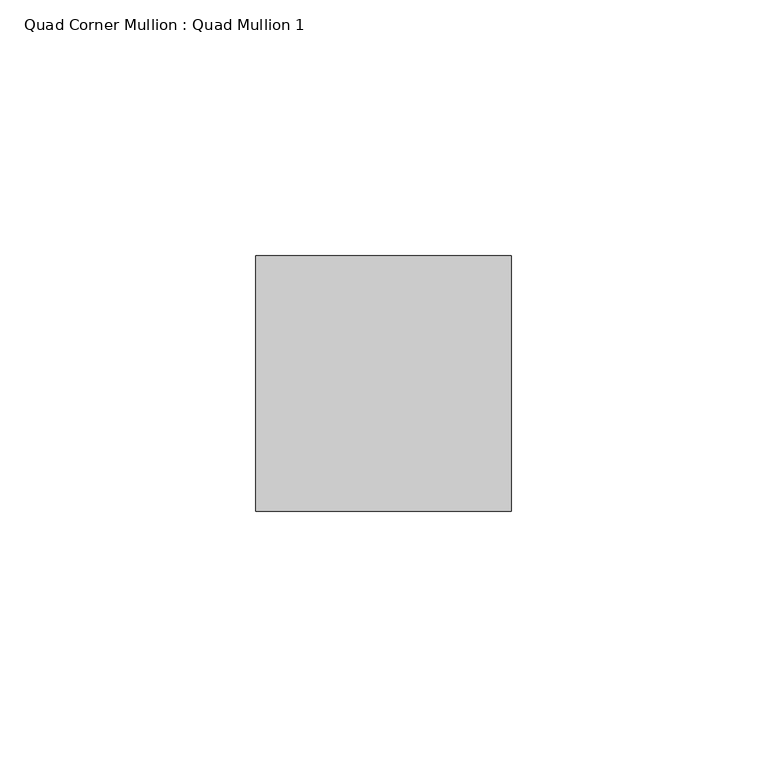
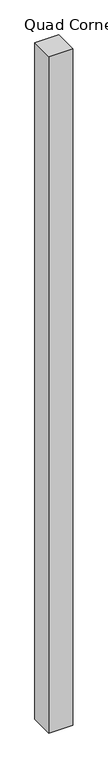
"""IFC4 building model written with IfcOpenShell, lengths in millimetres: member geometry, Quad Corner Mullion : Quad Mullion 1."""

import ifcopenshell
import ifcopenshell.guid

model = None  # the IFC model being written
_history = None  # IfcOwnerHistory: only IFC2X3 demands one
_inside = {}  # id of a spatial element -> (the spatial element, [elements in it])
_under = {}  # id of a project, library or spatial element -> (it, [spatial elements below it])
_declared = {}  # id of a project -> (the project, [libraries it declares])
_typed = {}  # id of a type object -> (the type object, [elements of that type])
_made_of = {}  # id of a material, layer set ... -> (it, [elements and type objects made of it])


def new_model(schema):
    """Start an empty IFC model of exactly this schema.

    Asked for "IFC4X3", IfcOpenShell would pick the latest addendum, in which some entities
    have other attributes; the version numbers below select the first issue.
    IFC2X3 requires an IfcOwnerHistory on every rooted entity: one is made here for all.
    """
    global model, _history
    if schema == "IFC4X3":
        model = ifcopenshell.file(schema_version=(4, 3, 0, 0))
    else:
        model = ifcopenshell.file(schema=schema)
    _inside.clear()
    _under.clear()
    _declared.clear()
    _typed.clear()
    _made_of.clear()
    _history = None
    if model.schema == "IFC2X3":
        org = make("IfcOrganization", Name="unknown")
        user = make(
            "IfcPersonAndOrganization",
            ThePerson=make("IfcPerson", FamilyName="unknown"),
            TheOrganization=org,
        )
        app = make(
            "IfcApplication",
            ApplicationDeveloper=org,
            Version="unknown",
            ApplicationFullName="unknown",
            ApplicationIdentifier="unknown",
        )
        _history = make(
            "IfcOwnerHistory",
            OwningUser=user,
            OwningApplication=app,
            ChangeAction="ADDED",
            CreationDate=0,
        )
    return model


def make(cls, **values):
    """One entity of the class cls with the attributes given. An attribute that is None is left unset."""
    return model.create_entity(
        cls, **{name: value for name, value in values.items() if value is not None}
    )


def rooted(cls, **values):
    """An entity with a GlobalId (a new one), such as an element, a storey or a relation."""
    return make(cls, GlobalId=ifcopenshell.guid.new(), OwnerHistory=_history, **values)


def si_unit(unit_type, name, prefix=None):
    """IfcSIUnit, for example si_unit("LENGTHUNIT", "METRE", prefix="MILLI")."""
    return make("IfcSIUnit", UnitType=unit_type, Prefix=prefix, Name=name)


def assignment(units):
    """IfcUnitAssignment: the units of a project."""
    return None if units is None else make("IfcUnitAssignment", Units=units)


def point(xyz):
    """IfcCartesianPoint."""
    return None if xyz is None else make("IfcCartesianPoint", Coordinates=xyz)


def direction(xyz):
    """IfcDirection."""
    return None if xyz is None else make("IfcDirection", DirectionRatios=xyz)


def frame(location, z_axis=None, x_axis=None):
    """IfcAxis2Placement3D, a coordinate frame: its origin and axes. An axis left out is left unset."""
    return make(
        "IfcAxis2Placement3D",
        Location=point(location),
        Axis=direction(z_axis),
        RefDirection=direction(x_axis),
    )


def origin():
    """The frame at (0, 0, 0) with its axes left unset."""
    return frame((0.0, 0.0, 0.0))


def place(relative_to, where):
    """IfcLocalPlacement: puts the frame where relative to a parent placement (None: the world)."""
    return make(
        "IfcLocalPlacement", PlacementRelTo=relative_to, RelativePlacement=where
    )


def context(
    kind, dimensions, precision=None, world=None, true_north=None, identifier=None
):
    """IfcGeometricRepresentationContext, for example the 3D "Model" context."""
    return make(
        "IfcGeometricRepresentationContext",
        ContextIdentifier=identifier,
        ContextType=kind,
        CoordinateSpaceDimension=dimensions,
        Precision=precision,
        WorldCoordinateSystem=world,
        TrueNorth=true_north,
    )


def project(units=None, contexts=None):
    """IfcProject with its units and contexts."""
    return rooted(
        "IfcProject",
        Name="project",
        RepresentationContexts=contexts,
        UnitsInContext=assignment(units),
    )


def spatial(cls, under=None, at=None, **own):
    """A site, building, storey or space (cls), placed at a placement, below another one or the project."""
    s = rooted(cls, ObjectPlacement=at, **own)
    if under is not None:
        _under.setdefault(under.id(), (under, []))[1].append(s)
    return s


def polyline(points):
    """IfcPolyline through the points."""
    return make("IfcPolyline", Points=[point(p) for p in points])


def outline(outer, holes=None, kind="AREA"):
    """IfcArbitraryClosedProfileDef: a profile drawn as a closed curve; with holes, ...WithVoids."""
    if holes is None:
        return make("IfcArbitraryClosedProfileDef", ProfileType=kind, OuterCurve=outer)
    return make(
        "IfcArbitraryProfileDefWithVoids",
        ProfileType=kind,
        OuterCurve=outer,
        InnerCurves=holes,
    )


def extrude(swept, where, along, depth):
    """IfcExtrudedAreaSolid: the profile swept, set in the frame where, extruded along a direction by depth."""
    return make(
        "IfcExtrudedAreaSolid",
        SweptArea=swept,
        Position=where,
        ExtrudedDirection=direction(along),
        Depth=depth,
    )


def shape(context_of_items, identifier, shape_type, items):
    """IfcShapeRepresentation: the items that make up one representation, for example the "Body"."""
    return make(
        "IfcShapeRepresentation",
        ContextOfItems=context_of_items,
        RepresentationIdentifier=identifier,
        RepresentationType=shape_type,
        Items=items,
    )


def source(mapping_origin, context_of_items, identifier, shape_type, items):
    """IfcRepresentationMap: a shape defined once, which mapped items show again and again."""
    return make(
        "IfcRepresentationMap",
        MappingOrigin=mapping_origin,
        MappedRepresentation=shape(context_of_items, identifier, shape_type, items),
    )


def transform(
    local_origin,
    x_axis=None,
    y_axis=None,
    z_axis=None,
    scale=None,
    scale2=None,
    scale3=None,
    uniform=True,
):
    """IfcCartesianTransformationOperator3D, or its non-uniform kind. x_axis, y_axis, z_axis: its Axis1, 2, 3."""
    if uniform:
        return make(
            "IfcCartesianTransformationOperator3D",
            Axis1=direction(x_axis),
            Axis2=direction(y_axis),
            LocalOrigin=point(local_origin),
            Scale=scale,
            Axis3=direction(z_axis),
        )
    return make(
        "IfcCartesianTransformationOperator3DnonUniform",
        Axis1=direction(x_axis),
        Axis2=direction(y_axis),
        LocalOrigin=point(local_origin),
        Scale=scale,
        Axis3=direction(z_axis),
        Scale2=scale2,
        Scale3=scale3,
    )


def mapped(mapping_source, mapping_target):
    """IfcMappedItem: shows the shape of a source again, moved by a transform."""
    return make(
        "IfcMappedItem", MappingSource=mapping_source, MappingTarget=mapping_target
    )


def made_of(thing, what):
    """Note that an element or type object is made of a material, layer set ...; save() writes the relation."""
    if what is not None:
        _made_of.setdefault(what.id(), (what, []))[1].append(thing)
    return thing


def element(
    cls,
    number,
    at=None,
    inside=None,
    cuts=None,
    type_object=None,
    material=None,
    context=None,
    identifier="Body",
    shape_type=None,
    held_by="IfcProductDefinitionShape",
    body=None,
    shapes=None,
    **own,
):
    """One element of the class cls, such as IfcWall. Its Tag is "e" and its number.

    at: its placement. inside: the storey or other place that contains it. cuts: it is an
    opening in that element (IfcRelVoidsElement). A single representation is given by context,
    identifier, shape_type and body (its items); several are given by shapes. held_by: the class
    of the entity that holds the representations. save() writes the other relations.
    """
    e = rooted(cls, Tag="e%d" % number, ObjectPlacement=at, **own)
    if body is not None:
        shapes = [shape(context, identifier, shape_type, body)]
    if shapes is not None:
        e.Representation = make(held_by, Representations=shapes)
    if inside is not None:
        _inside.setdefault(inside.id(), (inside, []))[1].append(e)
    if cuts is not None:
        rooted(
            "IfcRelVoidsElement", RelatingBuildingElement=cuts, RelatedOpeningElement=e
        )
    if type_object is not None:
        _typed.setdefault(type_object.id(), (type_object, []))[1].append(e)
    return made_of(e, material)


def aggregate(whole, parts):
    """IfcRelAggregates: a whole, such as a stair, and the parts it consists of."""
    return rooted("IfcRelAggregates", RelatingObject=whole, RelatedObjects=parts)


def save(model, path):
    """Write the relations noted so far, then the file.

    IfcRelAggregates (storeys below a building ...), IfcRelContainedInSpatialStructure (elements
    in a storey), IfcRelDefinesByType, IfcRelAssociatesMaterial and IfcRelDeclares: one each for
    every whole, place, type object, material and project.
    """
    for whole, parts in _under.values():
        aggregate(whole, parts)
    for where, things in _inside.values():
        rooted(
            "IfcRelContainedInSpatialStructure",
            RelatedElements=things,
            RelatingStructure=where,
        )
    for kind, things in _typed.values():
        rooted("IfcRelDefinesByType", RelatedObjects=things, RelatingType=kind)
    for what, things in _made_of.values():
        rooted("IfcRelAssociatesMaterial", RelatedObjects=things, RelatingMaterial=what)
    for by, libraries in _declared.values():
        rooted("IfcRelDeclares", RelatingContext=by, RelatedDefinitions=libraries)
    model.write(path)


def quad_corner_mullion_quad_mullion_1_c4bfbcce(model_context):
    return source(origin(), model_context, "Body", "SweptSolid", [
        extrude(outline(polyline([(25.0, 25.0), (25.0, -25.0), (-25.0, -25.0), (-25.0, 25.0), (25.0, 25.0)])), frame((0.0, 0.0, -1487.5619077), z_axis=(0.0, 0.0, 1.0), x_axis=(1.0, 0.0, 0.0)), (0.0, 0.0, 1.0), 1487.5619077),
    ])


if __name__ == "__main__":
    model = new_model("IFC4")
    model_context = context("Model", 3, world=origin())
    ifc_project = project(units=[si_unit("LENGTHUNIT", "METRE", prefix="MILLI")], contexts=[model_context])
    site = spatial("IfcSite", under=ifc_project)
    building = spatial("IfcBuilding", under=site)
    placement = place(None, origin())
    quad_corner_mullion_quad_mullion_1_shape = quad_corner_mullion_quad_mullion_1_c4bfbcce(model_context)
    element("IfcMember", 1, ObjectType="Quad Corner Mullion : Quad Mullion 1", at=placement, inside=building, context=model_context, shape_type="MappedRepresentation", body=[
        mapped(quad_corner_mullion_quad_mullion_1_shape, transform((0.0, 0.0, 0.0), x_axis=(1.0, 0.0, 0.0), y_axis=(0.0, 1.0, 0.0), z_axis=(0.0, 0.0, 1.0))),
    ])
    save(model, "model.ifc")
